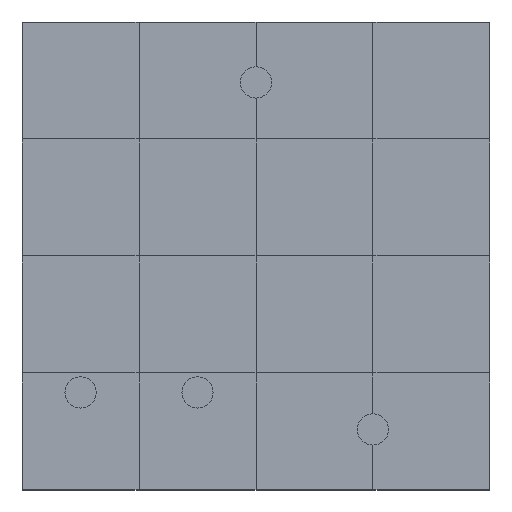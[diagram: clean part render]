
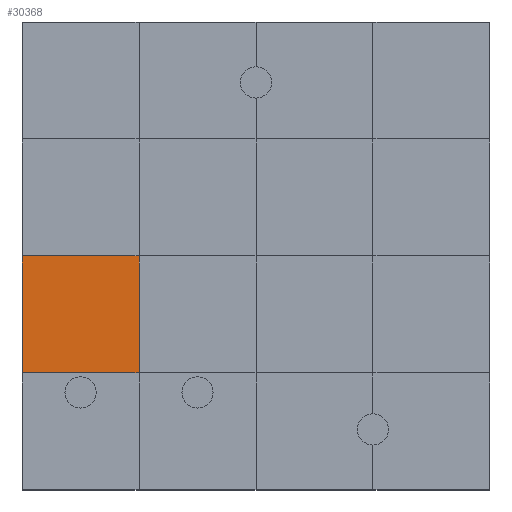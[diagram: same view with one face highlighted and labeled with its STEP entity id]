
A CAD part, top view. The second image highlights one B-rep face of the part: STEP entity #30368.
In plain terms, the highlighted planar face has unit normal (0, 0, 1).
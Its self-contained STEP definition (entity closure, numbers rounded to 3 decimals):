
#29939 = VERTEX_POINT('',#29940);
#29940 = CARTESIAN_POINT('',(0.,3.,1.5));
#29954 = PLANE('',#29955);
#29955 = AXIS2_PLACEMENT_3D('',#29956,#29957,#29958);
#29956 = CARTESIAN_POINT('',(0.,3.,0.));
#29957 = DIRECTION('',(1.,0.,-0.));
#29958 = DIRECTION('',(0.,0.,1.));
#29980 = PLANE('',#29981);
#29981 = AXIS2_PLACEMENT_3D('',#29982,#29983,#29984);
#29982 = CARTESIAN_POINT('',(0.,0.,1.5));
#29983 = DIRECTION('',(0.,0.,1.));
#29984 = DIRECTION('',(1.,0.,-0.));
#30074 = VERTEX_POINT('',#30075);
#30075 = CARTESIAN_POINT('',(3.,3.,1.5));
#30101 = EDGE_CURVE('',#29939,#30074,#30102,.T.);
#30102 = SURFACE_CURVE('',#30103,(#30107,#30114),.PCURVE_S1.);
#30103 = LINE('',#30104,#30105);
#30104 = CARTESIAN_POINT('',(0.,3.,1.5));
#30105 = VECTOR('',#30106,1.);
#30106 = DIRECTION('',(1.,0.,-0.));
#30107 = PCURVE('',#29980,#30108);
#30108 = DEFINITIONAL_REPRESENTATION('',(#30109),#30113);
#30109 = LINE('',#30110,#30111);
#30110 = CARTESIAN_POINT('',(0.,3.));
#30111 = VECTOR('',#30112,1.);
#30112 = DIRECTION('',(1.,0.));
#30113 = ( GEOMETRIC_REPRESENTATION_CONTEXT(2) 
PARAMETRIC_REPRESENTATION_CONTEXT() REPRESENTATION_CONTEXT('2D SPACE',''
  ) );
#30114 = PCURVE('',#30115,#30120);
#30115 = PLANE('',#30116);
#30116 = AXIS2_PLACEMENT_3D('',#30117,#30118,#30119);
#30117 = CARTESIAN_POINT('',(0.,3.,1.5));
#30118 = DIRECTION('',(0.,0.,1.));
#30119 = DIRECTION('',(1.,0.,-0.));
#30120 = DEFINITIONAL_REPRESENTATION('',(#30121),#30125);
#30121 = LINE('',#30122,#30123);
#30122 = CARTESIAN_POINT('',(0.,0.));
#30123 = VECTOR('',#30124,1.);
#30124 = DIRECTION('',(1.,0.));
#30125 = ( GEOMETRIC_REPRESENTATION_CONTEXT(2) 
PARAMETRIC_REPRESENTATION_CONTEXT() REPRESENTATION_CONTEXT('2D SPACE',''
  ) );
#30191 = VERTEX_POINT('',#30192);
#30192 = CARTESIAN_POINT('',(0.,6.,1.5));
#30218 = EDGE_CURVE('',#29939,#30191,#30219,.T.);
#30219 = SURFACE_CURVE('',#30220,(#30224,#30231),.PCURVE_S1.);
#30220 = LINE('',#30221,#30222);
#30221 = CARTESIAN_POINT('',(0.,3.,1.5));
#30222 = VECTOR('',#30223,1.);
#30223 = DIRECTION('',(-0.,1.,0.));
#30224 = PCURVE('',#29954,#30225);
#30225 = DEFINITIONAL_REPRESENTATION('',(#30226),#30230);
#30226 = LINE('',#30227,#30228);
#30227 = CARTESIAN_POINT('',(1.5,0.));
#30228 = VECTOR('',#30229,1.);
#30229 = DIRECTION('',(0.,-1.));
#30230 = ( GEOMETRIC_REPRESENTATION_CONTEXT(2) 
PARAMETRIC_REPRESENTATION_CONTEXT() REPRESENTATION_CONTEXT('2D SPACE',''
  ) );
#30231 = PCURVE('',#30115,#30232);
#30232 = DEFINITIONAL_REPRESENTATION('',(#30233),#30237);
#30233 = LINE('',#30234,#30235);
#30234 = CARTESIAN_POINT('',(0.,0.));
#30235 = VECTOR('',#30236,1.);
#30236 = DIRECTION('',(0.,1.));
#30237 = ( GEOMETRIC_REPRESENTATION_CONTEXT(2) 
PARAMETRIC_REPRESENTATION_CONTEXT() REPRESENTATION_CONTEXT('2D SPACE',''
  ) );
#30368 = ADVANCED_FACE('',(#30369),#30115,.T.);
#30369 = FACE_BOUND('',#30370,.T.);
#30370 = EDGE_LOOP('',(#30371,#30372,#30373,#30401));
#30371 = ORIENTED_EDGE('',*,*,#30218,.F.);
#30372 = ORIENTED_EDGE('',*,*,#30101,.T.);
#30373 = ORIENTED_EDGE('',*,*,#30374,.T.);
#30374 = EDGE_CURVE('',#30074,#30375,#30377,.T.);
#30375 = VERTEX_POINT('',#30376);
#30376 = CARTESIAN_POINT('',(3.,6.,1.5));
#30377 = SURFACE_CURVE('',#30378,(#30382,#30389),.PCURVE_S1.);
#30378 = LINE('',#30379,#30380);
#30379 = CARTESIAN_POINT('',(3.,3.,1.5));
#30380 = VECTOR('',#30381,1.);
#30381 = DIRECTION('',(-0.,1.,0.));
#30382 = PCURVE('',#30115,#30383);
#30383 = DEFINITIONAL_REPRESENTATION('',(#30384),#30388);
#30384 = LINE('',#30385,#30386);
#30385 = CARTESIAN_POINT('',(3.,0.));
#30386 = VECTOR('',#30387,1.);
#30387 = DIRECTION('',(0.,1.));
#30388 = ( GEOMETRIC_REPRESENTATION_CONTEXT(2) 
PARAMETRIC_REPRESENTATION_CONTEXT() REPRESENTATION_CONTEXT('2D SPACE',''
  ) );
#30389 = PCURVE('',#30390,#30395);
#30390 = PLANE('',#30391);
#30391 = AXIS2_PLACEMENT_3D('',#30392,#30393,#30394);
#30392 = CARTESIAN_POINT('',(3.,3.,1.5));
#30393 = DIRECTION('',(0.,0.,1.));
#30394 = DIRECTION('',(1.,0.,-0.));
#30395 = DEFINITIONAL_REPRESENTATION('',(#30396),#30400);
#30396 = LINE('',#30397,#30398);
#30397 = CARTESIAN_POINT('',(0.,0.));
#30398 = VECTOR('',#30399,1.);
#30399 = DIRECTION('',(0.,1.));
#30400 = ( GEOMETRIC_REPRESENTATION_CONTEXT(2) 
PARAMETRIC_REPRESENTATION_CONTEXT() REPRESENTATION_CONTEXT('2D SPACE',''
  ) );
#30401 = ORIENTED_EDGE('',*,*,#30402,.F.);
#30402 = EDGE_CURVE('',#30191,#30375,#30403,.T.);
#30403 = SURFACE_CURVE('',#30404,(#30408,#30415),.PCURVE_S1.);
#30404 = LINE('',#30405,#30406);
#30405 = CARTESIAN_POINT('',(0.,6.,1.5));
#30406 = VECTOR('',#30407,1.);
#30407 = DIRECTION('',(1.,0.,-0.));
#30408 = PCURVE('',#30115,#30409);
#30409 = DEFINITIONAL_REPRESENTATION('',(#30410),#30414);
#30410 = LINE('',#30411,#30412);
#30411 = CARTESIAN_POINT('',(0.,3.));
#30412 = VECTOR('',#30413,1.);
#30413 = DIRECTION('',(1.,0.));
#30414 = ( GEOMETRIC_REPRESENTATION_CONTEXT(2) 
PARAMETRIC_REPRESENTATION_CONTEXT() REPRESENTATION_CONTEXT('2D SPACE',''
  ) );
#30415 = PCURVE('',#30416,#30421);
#30416 = PLANE('',#30417);
#30417 = AXIS2_PLACEMENT_3D('',#30418,#30419,#30420);
#30418 = CARTESIAN_POINT('',(0.,6.,1.5));
#30419 = DIRECTION('',(0.,0.,1.));
#30420 = DIRECTION('',(1.,0.,-0.));
#30421 = DEFINITIONAL_REPRESENTATION('',(#30422),#30426);
#30422 = LINE('',#30423,#30424);
#30423 = CARTESIAN_POINT('',(0.,0.));
#30424 = VECTOR('',#30425,1.);
#30425 = DIRECTION('',(1.,0.));
#30426 = ( GEOMETRIC_REPRESENTATION_CONTEXT(2) 
PARAMETRIC_REPRESENTATION_CONTEXT() REPRESENTATION_CONTEXT('2D SPACE',''
  ) );
